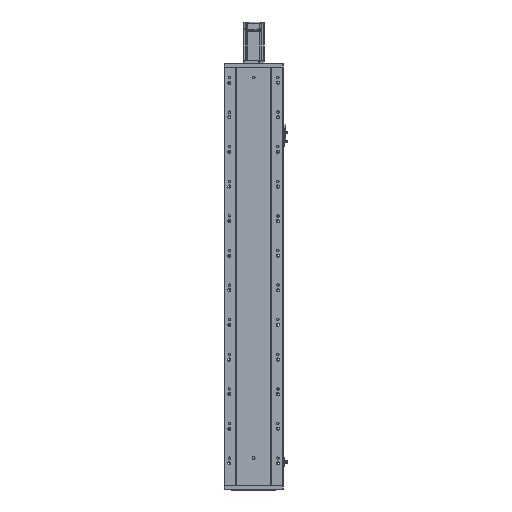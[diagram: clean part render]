
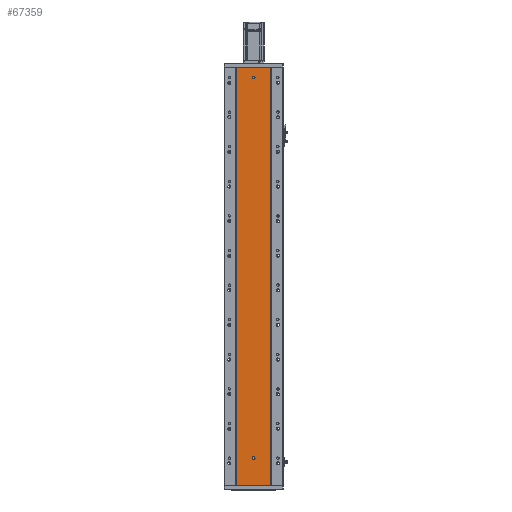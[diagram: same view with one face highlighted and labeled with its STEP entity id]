
A CAD part, front view. The second image highlights one B-rep face of the part: STEP entity #67359.
In plain terms, the highlighted planar face has unit normal (0, -1, 0).
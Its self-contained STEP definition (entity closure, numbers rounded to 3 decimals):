
#7472 = EDGE_CURVE ( 'NONE', #48956, #48951, #58583, .T. ) ;
#7518 = EDGE_CURVE ( 'NONE', #48971, #48943, #58637, .T. ) ;
#13052 = ORIENTED_EDGE ( 'NONE', *, *, #34046, .T. ) ;
#13082 = ORIENTED_EDGE ( 'NONE', *, *, #7518, .F. ) ;
#13126 = ORIENTED_EDGE ( 'NONE', *, *, #34075, .F. ) ;
#13130 = ORIENTED_EDGE ( 'NONE', *, *, #34064, .F. ) ;
#13147 = ORIENTED_EDGE ( 'NONE', *, *, #34091, .T. ) ;
#13162 = ORIENTED_EDGE ( 'NONE', *, *, #34036, .F. ) ;
#13178 = ORIENTED_EDGE ( 'NONE', *, *, #34030, .F. ) ;
#17993 = CARTESIAN_POINT ( 'NONE',  ( 185.97, 79.476, 1210. ) ) ;
#18003 = CARTESIAN_POINT ( 'NONE',  ( 185.97, 79.476, 0. ) ) ;
#18016 = CARTESIAN_POINT ( 'NONE',  ( 86.97, 79.476, 1210. ) ) ;
#18030 = CARTESIAN_POINT ( 'NONE',  ( 86.97, 79.476, 0. ) ) ;
#18904 = CARTESIAN_POINT ( 'NONE',  ( 136.47, 79.476, 1176. ) ) ;
#18916 = CARTESIAN_POINT ( 'NONE',  ( 136.47, 79.476, 1184. ) ) ;
#18925 = CARTESIAN_POINT ( 'NONE',  ( 136.47, 79.476, 76. ) ) ;
#18930 = CARTESIAN_POINT ( 'NONE',  ( 136.47, 79.476, 84. ) ) ;
#34030 = EDGE_CURVE ( 'NONE', #38798, #38803, #42247, .T. ) ;
#34036 = EDGE_CURVE ( 'NONE', #48951, #48956, #46296, .T. ) ;
#34046 = EDGE_CURVE ( 'NONE', #38819, #38827, #42242, .T. ) ;
#34064 = EDGE_CURVE ( 'NONE', #38819, #38798, #46360, .T. ) ;
#34075 = EDGE_CURVE ( 'NONE', #48943, #48971, #46356, .T. ) ;
#34091 = EDGE_CURVE ( 'NONE', #38827, #38803, #46390, .T. ) ;
#38798 = VERTEX_POINT ( 'NONE', #17993 ) ;
#38803 = VERTEX_POINT ( 'NONE', #18003 ) ;
#38819 = VERTEX_POINT ( 'NONE', #18016 ) ;
#38827 = VERTEX_POINT ( 'NONE', #18030 ) ;
#38964 = AXIS2_PLACEMENT_3D ( 'NONE', #65835, #65865, #65849 ) ;
#38985 = AXIS2_PLACEMENT_3D ( 'NONE', #65987, #65978, #66002 ) ;
#39583 = AXIS2_PLACEMENT_3D ( 'NONE', #45365, #45354, #45357 ) ;
#39591 = AXIS2_PLACEMENT_3D ( 'NONE', #45452, #45480, #45488 ) ;
#42242 = B_SPLINE_CURVE_WITH_KNOTS ( 'NONE', 3,
 ( #45391, #45388, #45371, #45393 ),
 .UNSPECIFIED., .F., .F.,
 ( 4, 4 ),
 ( 0., 1. ),
 .UNSPECIFIED. ) ;
#42247 = B_SPLINE_CURVE_WITH_KNOTS ( 'NONE', 3,
 ( #45326, #45331, #45362, #45345 ),
 .UNSPECIFIED., .F., .F.,
 ( 4, 4 ),
 ( 0., 1. ),
 .UNSPECIFIED. ) ;
#45326 = CARTESIAN_POINT ( 'NONE',  ( 185.97, 79.476, 1210. ) ) ;
#45331 = CARTESIAN_POINT ( 'NONE',  ( 185.97, 79.476, 806.667 ) ) ;
#45345 = CARTESIAN_POINT ( 'NONE',  ( 185.97, 79.476, 0. ) ) ;
#45354 = DIRECTION ( 'NONE',  ( 0., -1., 0. ) ) ;
#45357 = DIRECTION ( 'NONE',  ( 0., 0., -1. ) ) ;
#45362 = CARTESIAN_POINT ( 'NONE',  ( 185.97, 79.476, 403.333 ) ) ;
#45365 = CARTESIAN_POINT ( 'NONE',  ( 136.47, 79.476, 1180. ) ) ;
#45371 = CARTESIAN_POINT ( 'NONE',  ( 86.97, 79.476, 403.333 ) ) ;
#45388 = CARTESIAN_POINT ( 'NONE',  ( 86.97, 79.476, 806.667 ) ) ;
#45391 = CARTESIAN_POINT ( 'NONE',  ( 86.97, 79.476, 1210. ) ) ;
#45393 = CARTESIAN_POINT ( 'NONE',  ( 86.97, 79.476, 0. ) ) ;
#45437 = DIRECTION ( 'NONE',  ( 1., 0., 0. ) ) ;
#45444 = CARTESIAN_POINT ( 'NONE',  ( 0., 79.476, 1210. ) ) ;
#45451 = DIRECTION ( 'NONE',  ( 1., 0., 0. ) ) ;
#45452 = CARTESIAN_POINT ( 'NONE',  ( 136.47, 79.476, 80. ) ) ;
#45469 = CARTESIAN_POINT ( 'NONE',  ( 0., 79.476, 0. ) ) ;
#45480 = DIRECTION ( 'NONE',  ( 0., -1., 0. ) ) ;
#45488 = DIRECTION ( 'NONE',  ( 0., 0., -1. ) ) ;
#46296 = CIRCLE ( 'NONE', #39583, 4. ) ;
#46318 = VECTOR ( 'NONE', #45437, 1000. ) ;
#46356 = CIRCLE ( 'NONE', #39591, 4. ) ;
#46360 = LINE ( 'NONE', #45444, #46318 ) ;
#46390 = LINE ( 'NONE', #45469, #46391 ) ;
#46391 = VECTOR ( 'NONE', #45451, 1000. ) ;
#48943 = VERTEX_POINT ( 'NONE', #18925 ) ;
#48951 = VERTEX_POINT ( 'NONE', #18904 ) ;
#48956 = VERTEX_POINT ( 'NONE', #18916 ) ;
#48971 = VERTEX_POINT ( 'NONE', #18930 ) ;
#51390 = PLANE ( 'NONE',  #59995 ) ;
#51395 = CARTESIAN_POINT ( 'NONE',  ( 0., 79.476, 1210. ) ) ;
#51412 = DIRECTION ( 'NONE',  ( 0., 1., 0. ) ) ;
#51415 = DIRECTION ( 'NONE',  ( 0., 0., 1. ) ) ;
#53744 = FACE_BOUND ( 'NONE', #61760, .T. ) ;
#53788 = FACE_OUTER_BOUND ( 'NONE', #61814, .T. ) ;
#53819 = FACE_BOUND ( 'NONE', #61768, .T. ) ;
#58583 = CIRCLE ( 'NONE', #38964, 4. ) ;
#58637 = CIRCLE ( 'NONE', #38985, 4. ) ;
#59677 = ORIENTED_EDGE ( 'NONE', *, *, #7472, .F. ) ;
#59995 = AXIS2_PLACEMENT_3D ( 'NONE', #51395, #51412, #51415 ) ;
#61760 = EDGE_LOOP ( 'NONE', ( #13126, #13082 ) ) ;
#61768 = EDGE_LOOP ( 'NONE', ( #13162, #59677 ) ) ;
#61814 = EDGE_LOOP ( 'NONE', ( #13147, #13178, #13130, #13052 ) ) ;
#65835 = CARTESIAN_POINT ( 'NONE',  ( 136.47, 79.476, 1180. ) ) ;
#65849 = DIRECTION ( 'NONE',  ( 0., 0., -1. ) ) ;
#65865 = DIRECTION ( 'NONE',  ( 0., -1., 0. ) ) ;
#65978 = DIRECTION ( 'NONE',  ( 0., -1., 0. ) ) ;
#65987 = CARTESIAN_POINT ( 'NONE',  ( 136.47, 79.476, 80. ) ) ;
#66002 = DIRECTION ( 'NONE',  ( 0., 0., -1. ) ) ;
#67359 = ADVANCED_FACE ( 'NONE', ( #53819, #53744, #53788 ), #51390, .F. ) ;
